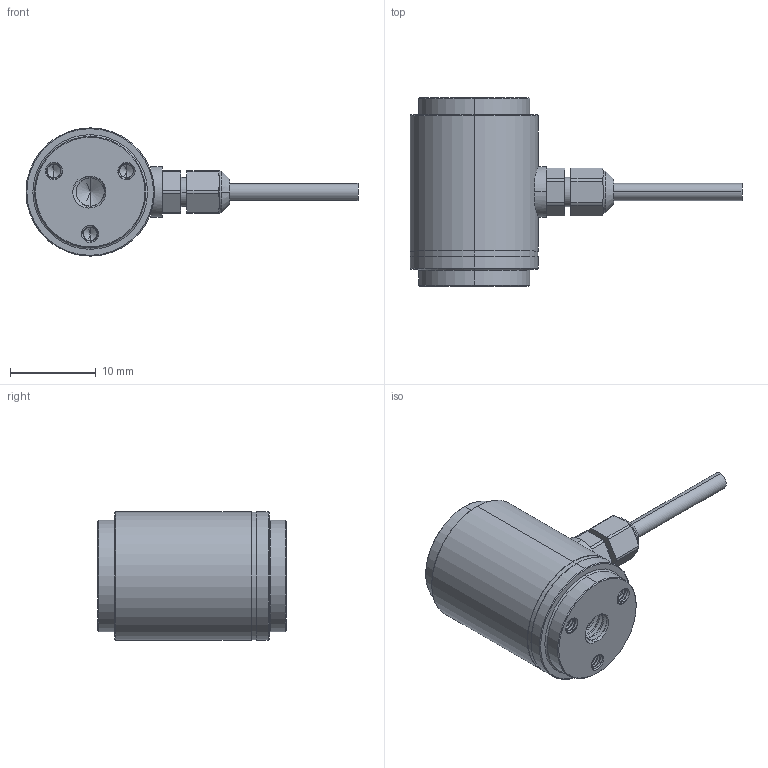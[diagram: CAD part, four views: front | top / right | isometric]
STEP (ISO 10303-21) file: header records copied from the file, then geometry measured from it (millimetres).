
FILE_DESCRIPTION (( 'STEP AP203' ), '1' );
FILE_NAME ('LCF04-M4.STEP', '2024-12-12T02:47:17', ( '' ), ( '' ), 'SwSTEP 2.0', 'SolidWorks 2019', '' );
FILE_SCHEMA (( 'CONFIG_CONTROL_DESIGN' ));
Length unit declared in the file: millimetre
Products named in the file (1): LCF04-M4
Bounding box: 38.8 x 22 x 15 mm (x, y, z)
Volume: 3690.8 mm3; surface area: 3190.1 mm2
Topology: 1 solids, 1 shells, 203 faces, 532 edges, 336 vertices
Faces by surface type: cylinder 118, cone 33, plane 33, bspline 15, torus 4
Entity records: 16939 total; most frequent: CARTESIAN_POINT 12450, ORIENTED_EDGE 1044, DIRECTION 807, EDGE_CURVE 522, VERTEX_POINT 336, AXIS2_PLACEMENT_3D 310, EDGE_LOOP 218, ADVANCED_FACE 203
